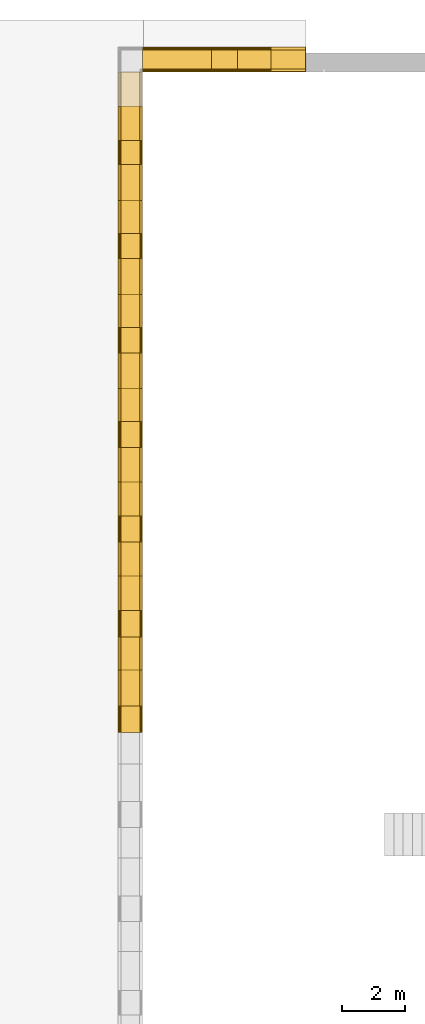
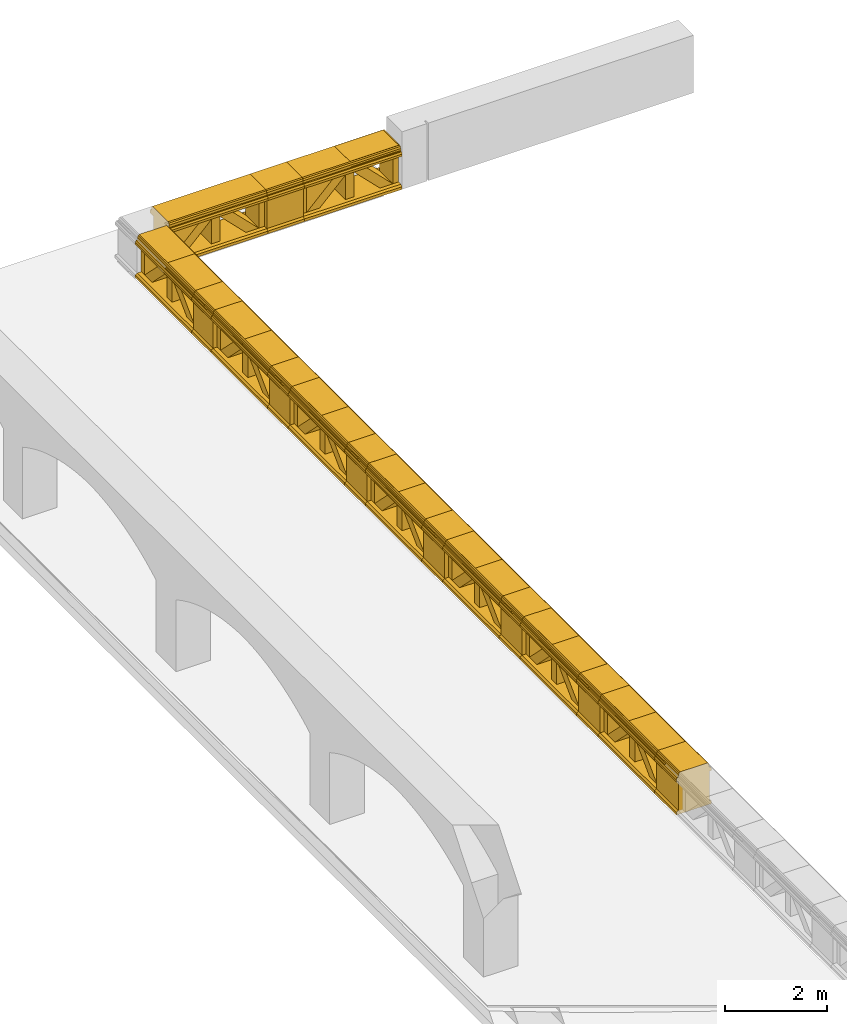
# One storey, part 8 of 9: 31 railings.
"""IFC2X3 building model written with IfcOpenShell, lengths in millimetres."""

import ifcopenshell
import ifcopenshell.guid

model = None  # the IFC model being written
_history = None  # IfcOwnerHistory: only IFC2X3 demands one
_inside = {}  # id of a spatial element -> (the spatial element, [elements in it])
_under = {}  # id of a project, library or spatial element -> (it, [spatial elements below it])
_declared = {}  # id of a project -> (the project, [libraries it declares])
_typed = {}  # id of a type object -> (the type object, [elements of that type])
_made_of = {}  # id of a material, layer set ... -> (it, [elements and type objects made of it])


def new_model(schema):
    """Start an empty IFC model of exactly this schema.

    Asked for "IFC4X3", IfcOpenShell would pick the latest addendum, in which some entities
    have other attributes; the version numbers below select the first issue.
    IFC2X3 requires an IfcOwnerHistory on every rooted entity: one is made here for all.
    """
    global model, _history
    if schema == "IFC4X3":
        model = ifcopenshell.file(schema_version=(4, 3, 0, 0))
    else:
        model = ifcopenshell.file(schema=schema)
    _inside.clear()
    _under.clear()
    _declared.clear()
    _typed.clear()
    _made_of.clear()
    _history = None
    if model.schema == "IFC2X3":
        org = make("IfcOrganization", Name="unknown")
        user = make(
            "IfcPersonAndOrganization",
            ThePerson=make("IfcPerson", FamilyName="unknown"),
            TheOrganization=org,
        )
        app = make(
            "IfcApplication",
            ApplicationDeveloper=org,
            Version="unknown",
            ApplicationFullName="unknown",
            ApplicationIdentifier="unknown",
        )
        _history = make(
            "IfcOwnerHistory",
            OwningUser=user,
            OwningApplication=app,
            ChangeAction="ADDED",
            CreationDate=0,
        )
    return model


def make(cls, **values):
    """One entity of the class cls with the attributes given. An attribute that is None is left unset."""
    return model.create_entity(
        cls, **{name: value for name, value in values.items() if value is not None}
    )


def entity(cls, *values):
    """Any entity or typed value of the class cls, its attributes in the order of the schema. None: left unset."""
    e = model.create_entity(cls)
    for i, value in enumerate(values):
        if value is not None:
            e[i] = value
    return e


def rooted(cls, **values):
    """An entity with a GlobalId (a new one), such as an element, a storey or a relation."""
    return make(cls, GlobalId=ifcopenshell.guid.new(), OwnerHistory=_history, **values)


def si_unit(unit_type, name, prefix=None):
    """IfcSIUnit, for example si_unit("LENGTHUNIT", "METRE", prefix="MILLI")."""
    return make("IfcSIUnit", UnitType=unit_type, Prefix=prefix, Name=name)


def converted_unit(unit_type, name, factor, base, dimensions=None, offset=None):
    """IfcConversionBasedUnit, such as the inch: factor (a typed value) times the base unit."""
    return make(
        "IfcConversionBasedUnit"
        if offset is None
        else "IfcConversionBasedUnitWithOffset",
        ConversionOffset=offset,
        Dimensions=None
        if dimensions is None
        else entity("IfcDimensionalExponents", *dimensions),
        UnitType=unit_type,
        Name=name,
        ConversionFactor=make(
            "IfcMeasureWithUnit", ValueComponent=factor, UnitComponent=base
        ),
    )


def derived_unit(unit_type, elements):
    """IfcDerivedUnit: a product of units, each with its exponent."""
    return make(
        "IfcDerivedUnit",
        Elements=[
            make("IfcDerivedUnitElement", Unit=unit, Exponent=power)
            for unit, power in elements
        ],
        UnitType=unit_type,
    )


def assignment(units):
    """IfcUnitAssignment: the units of a project."""
    return None if units is None else make("IfcUnitAssignment", Units=units)


def point(xyz):
    """IfcCartesianPoint."""
    return None if xyz is None else make("IfcCartesianPoint", Coordinates=xyz)


def direction(xyz):
    """IfcDirection."""
    return None if xyz is None else make("IfcDirection", DirectionRatios=xyz)


def frame(location, z_axis=None, x_axis=None):
    """IfcAxis2Placement3D, a coordinate frame: its origin and axes. An axis left out is left unset."""
    return make(
        "IfcAxis2Placement3D",
        Location=point(location),
        Axis=direction(z_axis),
        RefDirection=direction(x_axis),
    )


def origin():
    """The frame at (0, 0, 0) with its axes left unset."""
    return frame((0.0, 0.0, 0.0))


def place(relative_to, where):
    """IfcLocalPlacement: puts the frame where relative to a parent placement (None: the world)."""
    return make(
        "IfcLocalPlacement", PlacementRelTo=relative_to, RelativePlacement=where
    )


def context(
    kind, dimensions, precision=None, world=None, true_north=None, identifier=None
):
    """IfcGeometricRepresentationContext, for example the 3D "Model" context."""
    return make(
        "IfcGeometricRepresentationContext",
        ContextIdentifier=identifier,
        ContextType=kind,
        CoordinateSpaceDimension=dimensions,
        Precision=precision,
        WorldCoordinateSystem=world,
        TrueNorth=true_north,
    )


def subcontext(parent, identifier, kind, view, scale=None):
    """IfcGeometricRepresentationSubContext, for example "Body" below "Model"."""
    return make(
        "IfcGeometricRepresentationSubContext",
        ContextIdentifier=identifier,
        ContextType=kind,
        ParentContext=parent,
        TargetScale=scale,
        TargetView=view,
    )


def project(units=None, contexts=None):
    """IfcProject with its units and contexts."""
    return rooted(
        "IfcProject",
        Name="project",
        RepresentationContexts=contexts,
        UnitsInContext=assignment(units),
    )


def spatial(cls, under=None, at=None, **own):
    """A site, building, storey or space (cls), placed at a placement, below another one or the project."""
    s = rooted(cls, ObjectPlacement=at, **own)
    if under is not None:
        _under.setdefault(under.id(), (under, []))[1].append(s)
    return s


def polyline(points):
    """IfcPolyline through the points."""
    return make("IfcPolyline", Points=[point(p) for p in points])


def outline(outer, holes=None, kind="AREA"):
    """IfcArbitraryClosedProfileDef: a profile drawn as a closed curve; with holes, ...WithVoids."""
    if holes is None:
        return make("IfcArbitraryClosedProfileDef", ProfileType=kind, OuterCurve=outer)
    return make(
        "IfcArbitraryProfileDefWithVoids",
        ProfileType=kind,
        OuterCurve=outer,
        InnerCurves=holes,
    )


def extrude(swept, where, along, depth):
    """IfcExtrudedAreaSolid: the profile swept, set in the frame where, extruded along a direction by depth."""
    return make(
        "IfcExtrudedAreaSolid",
        SweptArea=swept,
        Position=where,
        ExtrudedDirection=direction(along),
        Depth=depth,
    )


def faces_of(points, faces, orient=None, outer=None):
    """IfcFace entities. A face is a list of loops; a loop is a list of indices into points, from 0.

    orient and outer hold one flag for each loop. By default every Orientation is true, the
    first loop of a face is its IfcFaceOuterBound and the others are IfcFaceBound.
    """
    made = []
    for i, loops in enumerate(faces):
        bounds = []
        for j, loop in enumerate(loops):
            is_outer = j == 0 if outer is None else outer[i][j]
            bounds.append(
                make(
                    "IfcFaceOuterBound" if is_outer else "IfcFaceBound",
                    Bound=make("IfcPolyLoop", Polygon=[points[k] for k in loop]),
                    Orientation=True if orient is None else orient[i][j],
                )
            )
        made.append(make("IfcFace", Bounds=bounds))
    return made


def faceted_brep(points, faces, orient=None, outer=None, voids=None):
    """IfcFacetedBrep: a solid bounded by flat faces; with voids (closed shells), ...WithVoids."""
    shared = [point(p) for p in points]
    hull = make("IfcClosedShell", CfsFaces=faces_of(shared, faces, orient, outer))
    if voids is None:
        return make("IfcFacetedBrep", Outer=hull)
    return make(
        "IfcFacetedBrepWithVoids",
        Outer=hull,
        Voids=[
            make(cls, CfsFaces=faces_of(shared, fs, o, b)) for cls, fs, o, b in voids
        ],
    )


def shape(context_of_items, identifier, shape_type, items):
    """IfcShapeRepresentation: the items that make up one representation, for example the "Body"."""
    return make(
        "IfcShapeRepresentation",
        ContextOfItems=context_of_items,
        RepresentationIdentifier=identifier,
        RepresentationType=shape_type,
        Items=items,
    )


def source(mapping_origin, context_of_items, identifier, shape_type, items):
    """IfcRepresentationMap: a shape defined once, which mapped items show again and again."""
    return make(
        "IfcRepresentationMap",
        MappingOrigin=mapping_origin,
        MappedRepresentation=shape(context_of_items, identifier, shape_type, items),
    )


def transform(
    local_origin,
    x_axis=None,
    y_axis=None,
    z_axis=None,
    scale=None,
    scale2=None,
    scale3=None,
    uniform=True,
):
    """IfcCartesianTransformationOperator3D, or its non-uniform kind. x_axis, y_axis, z_axis: its Axis1, 2, 3."""
    if uniform:
        return make(
            "IfcCartesianTransformationOperator3D",
            Axis1=direction(x_axis),
            Axis2=direction(y_axis),
            LocalOrigin=point(local_origin),
            Scale=scale,
            Axis3=direction(z_axis),
        )
    return make(
        "IfcCartesianTransformationOperator3DnonUniform",
        Axis1=direction(x_axis),
        Axis2=direction(y_axis),
        LocalOrigin=point(local_origin),
        Scale=scale,
        Axis3=direction(z_axis),
        Scale2=scale2,
        Scale3=scale3,
    )


def mapped(mapping_source, mapping_target):
    """IfcMappedItem: shows the shape of a source again, moved by a transform."""
    return make(
        "IfcMappedItem", MappingSource=mapping_source, MappingTarget=mapping_target
    )


def material(Name=None, Category=None):
    """IfcMaterial."""
    return make("IfcMaterial", Name=Name, Category=Category)


def made_of(thing, what):
    """Note that an element or type object is made of a material, layer set ...; save() writes the relation."""
    if what is not None:
        _made_of.setdefault(what.id(), (what, []))[1].append(thing)
    return thing


def type_object(cls, material=None, **own):
    """A type object (cls), such as IfcWallType, which elements share."""
    return made_of(rooted(cls, **own), material)


def type_shapes(of_type, sources):
    """Give a type object the sources (RepresentationMaps) that its elements show as mapped items."""
    of_type.RepresentationMaps = sources


def element(
    cls,
    number,
    at=None,
    inside=None,
    cuts=None,
    type_object=None,
    material=None,
    context=None,
    identifier="Body",
    shape_type=None,
    held_by="IfcProductDefinitionShape",
    body=None,
    shapes=None,
    **own,
):
    """One element of the class cls, such as IfcWall. Its Tag is "e" and its number.

    at: its placement. inside: the storey or other place that contains it. cuts: it is an
    opening in that element (IfcRelVoidsElement). A single representation is given by context,
    identifier, shape_type and body (its items); several are given by shapes. held_by: the class
    of the entity that holds the representations. save() writes the other relations.
    """
    e = rooted(cls, Tag="e%d" % number, ObjectPlacement=at, **own)
    if body is not None:
        shapes = [shape(context, identifier, shape_type, body)]
    if shapes is not None:
        e.Representation = make(held_by, Representations=shapes)
    if inside is not None:
        _inside.setdefault(inside.id(), (inside, []))[1].append(e)
    if cuts is not None:
        rooted(
            "IfcRelVoidsElement", RelatingBuildingElement=cuts, RelatedOpeningElement=e
        )
    if type_object is not None:
        _typed.setdefault(type_object.id(), (type_object, []))[1].append(e)
    return made_of(e, material)


def aggregate(whole, parts):
    """IfcRelAggregates: a whole, such as a stair, and the parts it consists of."""
    return rooted("IfcRelAggregates", RelatingObject=whole, RelatedObjects=parts)


def save(model, path):
    """Write the relations noted so far, then the file.

    IfcRelAggregates (storeys below a building ...), IfcRelContainedInSpatialStructure (elements
    in a storey), IfcRelDefinesByType, IfcRelAssociatesMaterial and IfcRelDeclares: one each for
    every whole, place, type object, material and project.
    """
    for whole, parts in _under.values():
        aggregate(whole, parts)
    for where, things in _inside.values():
        rooted(
            "IfcRelContainedInSpatialStructure",
            RelatedElements=things,
            RelatingStructure=where,
        )
    for kind, things in _typed.values():
        rooted("IfcRelDefinesByType", RelatedObjects=things, RelatingType=kind)
    for what, things in _made_of.values():
        rooted("IfcRelAssociatesMaterial", RelatedObjects=things, RelatingMaterial=what)
    for by, libraries in _declared.values():
        rooted("IfcRelDeclares", RelatingContext=by, RelatedDefinitions=libraries)
    model.write(path)


model = new_model("IFC2X3")

# Units and contexts
model_context = context("Model", 3, precision=0.01, world=origin(), true_north=direction((6.123031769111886e-17, 1.0)))
body_context = subcontext(model_context, "Body", "Model", "MODEL_VIEW")
ifc_project = project(units=[si_unit("LENGTHUNIT", "METRE", prefix="MILLI"), si_unit("AREAUNIT", "SQUARE_METRE"), si_unit("VOLUMEUNIT", "CUBIC_METRE"), converted_unit("PLANEANGLEUNIT", "DEGREE", entity("IfcPlaneAngleMeasure", 0.017453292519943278), si_unit("PLANEANGLEUNIT", "RADIAN"), dimensions=[0, 0, 0, 0, 0, 0, 0]), si_unit("MASSUNIT", "GRAM", prefix="KILO"), derived_unit("MASSDENSITYUNIT", [(si_unit("MASSUNIT", "GRAM", prefix="KILO"), 1), (si_unit("LENGTHUNIT", "METRE"), -3)]), derived_unit("IONCONCENTRATIONUNIT", [(si_unit("MASSUNIT", "GRAM", prefix="KILO"), 1), (si_unit("LENGTHUNIT", "METRE"), -3)]), derived_unit("MOMENTOFINERTIAUNIT", [(si_unit("LENGTHUNIT", "METRE"), 4)]), si_unit("TIMEUNIT", "SECOND"), si_unit("FREQUENCYUNIT", "HERTZ"), si_unit("THERMODYNAMICTEMPERATUREUNIT", "DEGREE_CELSIUS"), derived_unit("THERMALTRANSMITTANCEUNIT", [(si_unit("MASSUNIT", "GRAM", prefix="KILO"), 1), (si_unit("THERMODYNAMICTEMPERATUREUNIT", "KELVIN"), -1), (si_unit("TIMEUNIT", "SECOND"), -3)]), derived_unit("THERMALCONDUCTANCEUNIT", [(si_unit("MASSUNIT", "GRAM", prefix="KILO"), 1), (si_unit("THERMODYNAMICTEMPERATUREUNIT", "KELVIN"), -1), (si_unit("TIMEUNIT", "SECOND"), -3), (si_unit("LENGTHUNIT", "METRE"), 1)]), derived_unit("VOLUMETRICFLOWRATEUNIT", [(si_unit("LENGTHUNIT", "METRE", prefix="DECI"), 3), (si_unit("TIMEUNIT", "SECOND"), -1)]), derived_unit("MASSFLOWRATEUNIT", [(si_unit("MASSUNIT", "GRAM", prefix="KILO"), 1), (si_unit("TIMEUNIT", "SECOND"), -1)]), derived_unit("ROTATIONALFREQUENCYUNIT", [(si_unit("TIMEUNIT", "SECOND"), -1)]), si_unit("ELECTRICCURRENTUNIT", "AMPERE"), si_unit("ELECTRICVOLTAGEUNIT", "VOLT"), si_unit("POWERUNIT", "WATT"), si_unit("FORCEUNIT", "NEWTON", prefix="KILO"), si_unit("ILLUMINANCEUNIT", "LUX"), si_unit("LUMINOUSFLUXUNIT", "LUMEN"), si_unit("LUMINOUSINTENSITYUNIT", "CANDELA"), si_unit("ENERGYUNIT", "JOULE"), derived_unit("USERDEFINED", [(si_unit("MASSUNIT", "GRAM", prefix="KILO"), -1), (si_unit("LENGTHUNIT", "METRE"), -2), (si_unit("TIMEUNIT", "SECOND"), 3), (si_unit("LUMINOUSFLUXUNIT", "LUMEN"), 1)]), derived_unit("USERDEFINED", [(si_unit("MASSUNIT", "GRAM", prefix="KILO"), 1), (si_unit("TIMEUNIT", "SECOND"), -3), (si_unit("LENGTHUNIT", "METRE"), 3), (si_unit("ELECTRICCURRENTUNIT", "AMPERE"), -2)]), derived_unit("SOUNDPOWERUNIT", [(si_unit("MASSUNIT", "GRAM", prefix="KILO"), 1), (si_unit("TIMEUNIT", "SECOND"), -3), (si_unit("LENGTHUNIT", "METRE"), 2)]), derived_unit("SOUNDPRESSUREUNIT", [(si_unit("MASSUNIT", "GRAM", prefix="KILO"), 1), (si_unit("LENGTHUNIT", "METRE"), -1), (si_unit("TIMEUNIT", "SECOND"), -2)]), derived_unit("LINEARVELOCITYUNIT", [(si_unit("LENGTHUNIT", "METRE"), 1), (si_unit("TIMEUNIT", "SECOND"), -1)]), si_unit("PRESSUREUNIT", "PASCAL"), derived_unit("USERDEFINED", [(si_unit("MASSUNIT", "GRAM", prefix="KILO"), 1), (si_unit("LENGTHUNIT", "METRE"), -2), (si_unit("TIMEUNIT", "SECOND"), -2)]), derived_unit("LINEARFORCEUNIT", [(si_unit("MASSUNIT", "GRAM", prefix="KILO"), 1), (si_unit("TIMEUNIT", "SECOND"), -2)]), derived_unit("PLANARFORCEUNIT", [(si_unit("MASSUNIT", "GRAM", prefix="KILO"), 1), (si_unit("LENGTHUNIT", "METRE"), -1), (si_unit("TIMEUNIT", "SECOND"), -2)]), derived_unit("SPECIFICHEATCAPACITYUNIT", [(si_unit("THERMODYNAMICTEMPERATUREUNIT", "KELVIN"), -1), (si_unit("LENGTHUNIT", "METRE"), 2), (si_unit("TIMEUNIT", "SECOND"), -2)]), derived_unit("HEATFLUXDENSITYUNIT", [(si_unit("MASSUNIT", "GRAM", prefix="KILO"), 1), (si_unit("TIMEUNIT", "SECOND"), -3)]), derived_unit("HEATINGVALUEUNIT", [(si_unit("LENGTHUNIT", "METRE"), 2), (si_unit("TIMEUNIT", "SECOND"), -2)]), derived_unit("VAPORPERMEABILITYUNIT", [(si_unit("LENGTHUNIT", "METRE"), -1), (si_unit("TIMEUNIT", "SECOND"), 1)]), derived_unit("DYNAMICVISCOSITYUNIT", [(si_unit("MASSUNIT", "GRAM", prefix="KILO"), 1), (si_unit("TIMEUNIT", "SECOND"), -1), (si_unit("LENGTHUNIT", "METRE"), -1)]), derived_unit("THERMALEXPANSIONCOEFFICIENTUNIT", [(si_unit("THERMODYNAMICTEMPERATUREUNIT", "KELVIN"), -1)]), derived_unit("MODULUSOFELASTICITYUNIT", [(si_unit("MASSUNIT", "GRAM", prefix="KILO"), 1), (si_unit("LENGTHUNIT", "METRE"), -1), (si_unit("TIMEUNIT", "SECOND"), -2)]), derived_unit("ISOTHERMALMOISTURECAPACITYUNIT", [(si_unit("MASSUNIT", "GRAM", prefix="KILO"), -1), (si_unit("LENGTHUNIT", "METRE"), 3)]), derived_unit("MOISTUREDIFFUSIVITYUNIT", [(si_unit("TIMEUNIT", "SECOND"), -1), (si_unit("LENGTHUNIT", "METRE"), 2)]), derived_unit("MASSPERLENGTHUNIT", [(si_unit("MASSUNIT", "GRAM", prefix="KILO"), 1), (si_unit("LENGTHUNIT", "METRE"), -1)]), derived_unit("THERMALRESISTANCEUNIT", [(si_unit("MASSUNIT", "GRAM", prefix="KILO"), -1), (si_unit("TIMEUNIT", "SECOND"), 3), (si_unit("THERMODYNAMICTEMPERATUREUNIT", "KELVIN"), 1)]), derived_unit("ACCELERATIONUNIT", [(si_unit("LENGTHUNIT", "METRE"), 1), (si_unit("TIMEUNIT", "SECOND"), -2)]), derived_unit("ANGULARVELOCITYUNIT", [(si_unit("TIMEUNIT", "SECOND"), -1), (si_unit("PLANEANGLEUNIT", "RADIAN"), 1)]), derived_unit("LINEARSTIFFNESSUNIT", [(si_unit("MASSUNIT", "GRAM", prefix="KILO"), 1), (si_unit("TIMEUNIT", "SECOND"), -2)]), derived_unit("WARPINGCONSTANTUNIT", [(si_unit("LENGTHUNIT", "METRE"), 6)]), derived_unit("LINEARMOMENTUNIT", [(si_unit("MASSUNIT", "GRAM", prefix="KILO"), 1), (si_unit("LENGTHUNIT", "METRE"), 1), (si_unit("TIMEUNIT", "SECOND"), -2)]), derived_unit("TORQUEUNIT", [(si_unit("MASSUNIT", "GRAM", prefix="KILO"), 1), (si_unit("LENGTHUNIT", "METRE"), 2), (si_unit("TIMEUNIT", "SECOND"), -2)])], contexts=[model_context])

# Site, building, storey
site_placement = place(None, origin())
site = spatial("IfcSite", under=ifc_project, at=site_placement, Name="Default", CompositionType="ELEMENT")
building_placement = place(site_placement, origin())
building = spatial("IfcBuilding", under=site, at=building_placement, Name="Eesti Rahvusraamatukogu hoone renoveerimise projekteerimistööd", CompositionType="ELEMENT")
storey_placement = place(building_placement, frame((0.0, 0.0, 3100.0)))
storey = spatial("IfcBuildingStorey", under=building, at=storey_placement, Name="E-korpus 2. korrus", CompositionType="ELEMENT", Elevation=3100.0)

# Railings
ifc_material = material(Name="LUMION_facade concrete")
railing_type_1 = type_object("IfcRailingType", Name="MK piire, katusepõhine 1:Railing Roof Based", PredefinedType="NOTDEFINED", material=ifc_material)
shared_shape_1 = source(origin(), body_context, "Body", "Brep", [
    faceted_brep([(1100.0, -261.2500000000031, 420.0), (1100.0, 261.2500000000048, 420.0), (1100.0, 261.25000000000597, 1210.0), (1100.0, 396.2500000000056, 1210.0), (1100.0, 396.2500000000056, 1260.882352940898), (1100.0, 376.25000000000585, 1305.0), (1100.0, 346.25000000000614, 1305.0), (1100.0, 346.2500000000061, 1362.4999999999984), (1100.0, 329.25000000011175, 1400.0), (1100.0, 306.25000000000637, 1420.0), (1100.0, -306.2500000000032, 1420.0), (1100.0, -329.250000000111, 1400.0), (1100.0, -346.25000000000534, 1362.4999999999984), (1100.0, -346.25000000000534, 1305.0), (1100.0, -376.250000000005, 1305.0), (1100.0, -396.25000000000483, 1260.882352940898), (1100.0, -396.25000000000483, 1210.0), (1100.0, -261.2500000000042, 1210.0), (-1100.0, -261.2500000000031, 420.0), (-1100.0, -261.2500000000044, 1210.0), (-1100.0, -396.25000000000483, 1210.0), (-1100.0, -396.25000000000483, 1260.882352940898), (-1100.0, -376.250000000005, 1305.0), (-1100.0, -346.25000000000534, 1305.0), (-1100.0, -346.25000000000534, 1362.4999999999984), (-1100.0, -329.250000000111, 1400.0), (-1100.0, -306.25000000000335, 1420.0), (-1100.0, 306.25000000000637, 1420.0), (-1100.0, 329.25000000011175, 1400.0), (-1100.0, 346.2500000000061, 1362.4999999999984), (-1100.0, 346.25000000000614, 1305.0), (-1100.0, 376.25000000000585, 1305.0), (-1100.0, 396.2500000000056, 1260.882352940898), (-1100.0, 396.2500000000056, 1210.0), (-1100.0, 261.25000000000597, 1210.0), (-1100.0, 261.2500000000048, 420.0), (970.0, -261.2500000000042, 1210.0), (970.0, -261.2500000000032, 515.0), (275.0, -261.2500000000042, 1210.0), (-275.0, -261.2500000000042, 1210.0), (-970.0, -261.2500000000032, 515.0), (-970.0, -261.2500000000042, 1210.0), (680.0, -261.2500000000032, 515.0), (100.0, -261.2500000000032, 515.0), (100.0, -261.25000000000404, 1095.0), (-100.0, -261.2500000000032, 515.0), (-680.0, -261.2500000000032, 515.0), (-100.0, -261.25000000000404, 1095.0), (-970.0, 261.25000000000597, 1210.0), (-970.0, 261.25000000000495, 515.0), (-275.0, 261.25000000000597, 1210.0), (275.0, 261.25000000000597, 1210.0), (970.0, 261.25000000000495, 515.0), (970.0, 261.25000000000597, 1210.0), (100.0, 261.25000000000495, 515.0), (680.0, 261.25000000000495, 515.0), (100.0, 261.2500000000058, 1095.0), (-680.0, 261.25000000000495, 515.0), (-100.0, 261.25000000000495, 515.0), (-100.0, 261.2500000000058, 1095.0)], [[[0, 1, 2, 3, 4, 5, 6, 7, 8, 9, 10, 11, 12, 13, 14, 15, 16, 17]], [[18, 19, 20, 21, 22, 23, 24, 25, 26, 27, 28, 29, 30, 31, 32, 33, 34, 35]], [[0, 17, 36, 37, 38, 39, 40, 41, 19, 18], [42, 43, 44], [45, 46, 47]], [[1, 0, 18, 35]], [[2, 1, 35, 34, 48, 49, 50, 51, 52, 53], [54, 55, 56], [57, 58, 59]], [[3, 2, 53, 36, 17, 16, 20, 19, 41, 48, 34, 33], [50, 39, 38, 51]], [[4, 3, 33, 32]], [[5, 4, 32, 31]], [[6, 5, 31, 30]], [[7, 6, 30, 29]], [[8, 7, 29, 28]], [[9, 8, 28, 27]], [[10, 9, 27, 26]], [[11, 10, 26, 25]], [[12, 11, 25, 24]], [[13, 12, 24, 23]], [[14, 13, 23, 22]], [[15, 14, 22, 21]], [[20, 16, 15, 21]], [[54, 43, 42, 55]], [[55, 42, 44, 56]], [[43, 54, 56, 44]], [[57, 46, 45, 58]], [[58, 45, 47, 59]], [[46, 57, 59, 47]], [[39, 50, 49, 40]], [[48, 41, 40, 49]], [[36, 53, 52, 37]], [[51, 38, 37, 52]]]),
    faceted_brep([(1100.0, -396.2500000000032, 420.0), (1100.0, -261.25000000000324, 420.0), (1100.0, -261.25000000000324, 515.0), (1100.0, -351.2500000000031, 515.0), (1100.0, -396.2500000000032, 483.4906607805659), (-1100.0, -396.2500000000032, 420.0), (-1100.0, -261.25000000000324, 420.0), (-1100.0, -261.25000000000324, 515.0), (-1100.0, -396.2500000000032, 483.4906607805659), (-1100.0, -351.2500000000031, 515.0)], [[[0, 1, 2, 3, 4]], [[1, 0, 5, 6]], [[2, 1, 6, 7]], [[0, 4, 8, 5]], [[3, 2, 7, 9]], [[4, 3, 9, 8]], [[5, 8, 9, 7, 6]]]),
    faceted_brep([(-1100.0, 396.250000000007, 420.0), (-1100.0, 261.2500000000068, 420.0), (-1100.0, 261.2500000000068, 515.0), (-1100.0, 351.25000000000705, 515.0), (-1100.0, 396.250000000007, 483.4906607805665), (1100.0, 396.250000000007, 483.4906607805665), (1100.0, 396.250000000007, 420.0), (1100.0, 261.2500000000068, 420.0), (1100.0, 261.2500000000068, 515.0), (1100.0, 351.25000000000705, 515.0)], [[[0, 1, 2, 3, 4]], [[5, 6, 0, 4]], [[7, 8, 2, 1]], [[6, 7, 1, 0]], [[9, 5, 4, 3]], [[8, 9, 3, 2]], [[6, 5, 9, 8, 7]]]),
])
type_shapes(railing_type_1, [shared_shape_1])
for number, where, name in (
    (1, (-38470.0, 54386.62627987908, 60.0), "MK piire, katusepõhine 1:Railing Roof Based"),
    (2, (-41490.0, 54386.62627987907, 60.0), "MK piire, katusepõhine 1:Railing Roof Based"),
):
    element("IfcRailing", number, at=place(storey_placement, frame(where)), inside=storey, type_object=railing_type_1, material=ifc_material, Name=name, ObjectType="MK piire, katusepõhine 1:Railing Roof Based", PredefinedType="NOTDEFINED", context=body_context, shape_type="MappedRepresentation", body=[
        mapped(shared_shape_1, transform((0.0, 0.0, 0.0), scale=1.0)),
    ])
for number, where, z_axis, x_axis, name in (
    (3, (-42986.24999999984, 52890.37627987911, 60.0), (0.0, 0.0, 1.0), (0.0, -1.0, 0.0), "MK piire, katusepõhine 1:Railing Roof Based"),
    (4, (-42986.24999999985, 49930.0, 60.0), (0.0, 0.0, 1.0), (0.0, -1.0, 0.0), "MK piire, katusepõhine 1:Railing Roof Based"),
    (5, (-42986.24999999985, 46922.0000000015, 60.0), (0.0, 0.0, 1.0), (0.0, -1.0, 0.0), "MK piire, katusepõhine 1:Railing Roof Based"),
    (6, (-42986.24999999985, 43913.49208346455, 60.0), (0.0, 0.0, 1.0), (0.0, -1.0, 0.0), "MK piire, katusepõhine 1:Railing Roof Based"),
    (7, (-42986.249999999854, 40892.00000000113, 60.0), (0.0, 0.0, 1.0), (0.0, -1.0, 0.0), "MK piire, katusepõhine 1:Railing Roof Based"),
    (8, (-42986.24999999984, 37874.00000000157, 60.0), (0.0, 0.0, 1.0), (0.0, -1.0, 0.0), "MK piire, katusepõhine 1:Railing Roof Based"),
    (9, (-42986.24999999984, 34827.725950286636, 60.0), (0.0, 0.0, 1.0), (0.0, -1.0, 0.0), "MK piire, katusepõhine 1:Railing Roof Based"),
):
    element("IfcRailing", number, at=place(storey_placement, frame(where, z_axis=z_axis, x_axis=x_axis)), inside=storey, type_object=railing_type_1, material=ifc_material, Name=name, ObjectType="MK piire, katusepõhine 1:Railing Roof Based", PredefinedType="NOTDEFINED", context=body_context, shape_type="MappedRepresentation", body=[
        mapped(shared_shape_1, transform((0.0, 0.0, 0.0), scale=1.0)),
    ])
railing_type_2 = type_object("IfcRailingType", Name="MK piire, katusepõhine 4:PR-03 - Piirde element väljas, tumm", PredefinedType="NOTDEFINED", material=ifc_material)
shared_shape_2 = source(origin(), body_context, "Body", "SweptSolid", [
    extrude(outline(polyline([(597.5887041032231, -396.25000000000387), (661.0793648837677, -396.25000000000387), (661.0793648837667, 396.2500000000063), (597.5887041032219, 396.25000000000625), (566.0793648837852, 351.2500000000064), (-128.92063511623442, 351.25000000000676), (-128.92063511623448, 396.2500000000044), (-179.80298805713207, 396.2500000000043), (-223.92063511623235, 376.2500000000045), (-223.92063511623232, 346.2500000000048), (-281.42063511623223, 346.2500000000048), (-318.9206351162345, 329.2500000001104), (-338.9206351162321, 306.250000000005), (-338.92063511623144, -306.2500000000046), (-318.9206351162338, -329.25000000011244), (-281.4206351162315, -346.2500000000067), (-223.92063511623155, -346.2500000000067), (-223.92063511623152, -376.25000000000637), (-179.80298805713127, -396.2500000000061), (-128.92063511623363, -396.250000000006), (-128.92063511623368, -351.25000000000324), (566.079364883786, -351.25000000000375), (597.5887041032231, -396.25000000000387)])), frame((-1100.0, 0.0, 1081.0793648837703), z_axis=(1.0, 0.0, 0.0), x_axis=(0.0, 0.0, -1.0)), (0.0, 0.0, 1.0), 819.9999999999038),
])
type_shapes(railing_type_2, [shared_shape_2])
railing_1_placement = place(storey_placement, frame((-39290.0, 54386.62627987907, 60.0)))
element("IfcRailing", 10, at=railing_1_placement, inside=storey, type_object=railing_type_2, material=ifc_material, Name="MK piire, katusepõhine 4:PR-03 - Piirde element väljas, tumm", ObjectType="MK piire, katusepõhine 4:PR-03 - Piirde element väljas, tumm", PredefinedType="NOTDEFINED", context=body_context, shape_type="MappedRepresentation", body=[
    mapped(shared_shape_2, transform((0.0, 0.0, 0.0), scale=1.0)),
])
railing_type_3 = type_object("IfcRailingType", Name="MK piire, katusepõhine 4:PR-03 - Piirde element väljas, tumm", PredefinedType="NOTDEFINED", material=ifc_material)
shared_shape_3 = source(origin(), body_context, "Body", "SweptSolid", [
    extrude(outline(polyline([(597.5887041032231, -396.25000000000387), (661.0793648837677, -396.25000000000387), (661.0793648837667, 396.2500000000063), (597.5887041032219, 396.25000000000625), (566.0793648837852, 351.2500000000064), (-128.92063511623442, 351.25000000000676), (-128.92063511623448, 396.2500000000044), (-179.80298805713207, 396.2500000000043), (-223.92063511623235, 376.2500000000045), (-223.92063511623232, 346.2500000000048), (-281.42063511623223, 346.2500000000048), (-318.9206351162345, 329.2500000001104), (-338.9206351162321, 306.250000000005), (-338.92063511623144, -306.2500000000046), (-318.9206351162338, -329.25000000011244), (-281.4206351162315, -346.2500000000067), (-223.92063511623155, -346.2500000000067), (-223.92063511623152, -376.25000000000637), (-179.80298805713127, -396.2500000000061), (-128.92063511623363, -396.250000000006), (-128.92063511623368, -351.25000000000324), (566.079364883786, -351.25000000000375), (597.5887041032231, -396.25000000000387)])), frame((-1100.0, 0.0, 1081.0793648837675), z_axis=(1.0, 0.0, 0.0), x_axis=(0.0, 0.0, -1.0)), (0.0, 0.0, 1.0), 760.3762798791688),
])
type_shapes(railing_type_3, [shared_shape_3])
railing_2_placement = place(storey_placement, frame((-42986.24999999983, 50690.3762798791, 60.0), z_axis=(0.0, 0.0, 1.0), x_axis=(0.0, -1.0, 0.0)))
element("IfcRailing", 11, at=railing_2_placement, inside=storey, type_object=railing_type_3, material=ifc_material, Name="MK piire, katusepõhine 4:PR-03 - Piirde element väljas, tumm", ObjectType="MK piire, katusepõhine 4:PR-03 - Piirde element väljas, tumm", PredefinedType="NOTDEFINED", context=body_context, shape_type="MappedRepresentation", body=[
    mapped(shared_shape_3, transform((0.0, 0.0, 0.0), scale=1.0)),
])
railing_type_4 = type_object("IfcRailingType", Name="MK piire, katusepõhine 4:PR-03 - Piirde element väljas, tumm", PredefinedType="NOTDEFINED", material=ifc_material)
shared_shape_4 = source(origin(), body_context, "Body", "SweptSolid", [
    extrude(outline(polyline([(597.5887041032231, -396.25000000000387), (661.0793648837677, -396.25000000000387), (661.0793648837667, 396.2500000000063), (597.5887041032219, 396.25000000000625), (566.0793648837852, 351.2500000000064), (-128.92063511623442, 351.25000000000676), (-128.92063511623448, 396.2500000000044), (-179.80298805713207, 396.2500000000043), (-223.92063511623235, 376.2500000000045), (-223.92063511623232, 346.2500000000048), (-281.42063511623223, 346.2500000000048), (-318.9206351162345, 329.2500000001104), (-338.9206351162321, 306.250000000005), (-338.92063511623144, -306.2500000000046), (-318.9206351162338, -329.25000000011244), (-281.4206351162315, -346.2500000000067), (-223.92063511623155, -346.2500000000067), (-223.92063511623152, -376.25000000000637), (-179.80298805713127, -396.2500000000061), (-128.92063511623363, -396.250000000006), (-128.92063511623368, -351.25000000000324), (566.079364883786, -351.25000000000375), (597.5887041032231, -396.25000000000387)])), frame((-1100.0, 0.0, 1081.0793648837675), z_axis=(1.0, 0.0, 0.0), x_axis=(0.0, 0.0, -1.0)), (0.0, 0.0, 1.0), 807.9999999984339),
])
type_shapes(railing_type_4, [shared_shape_4])
railing_3_placement = place(storey_placement, frame((-42986.24999999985, 47730.0, 60.0), z_axis=(0.0, 0.0, 1.0), x_axis=(0.0, -1.0, 0.0)))
element("IfcRailing", 12, at=railing_3_placement, inside=storey, type_object=railing_type_4, material=ifc_material, Name="MK piire, katusepõhine 4:PR-03 - Piirde element väljas, tumm", ObjectType="MK piire, katusepõhine 4:PR-03 - Piirde element väljas, tumm", PredefinedType="NOTDEFINED", context=body_context, shape_type="MappedRepresentation", body=[
    mapped(shared_shape_4, transform((0.0, 0.0, 0.0), scale=1.0)),
])
railing_type_5 = type_object("IfcRailingType", Name="MK piire, katusepõhine 4:PR-03 - Piirde element väljas, tumm", PredefinedType="NOTDEFINED", material=ifc_material)
shared_shape_5 = source(origin(), body_context, "Body", "SweptSolid", [
    extrude(outline(polyline([(597.5887041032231, -396.25000000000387), (661.0793648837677, -396.25000000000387), (661.0793648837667, 396.2500000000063), (597.5887041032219, 396.25000000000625), (566.0793648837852, 351.2500000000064), (-128.92063511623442, 351.25000000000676), (-128.92063511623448, 396.2500000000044), (-179.80298805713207, 396.2500000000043), (-223.92063511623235, 376.2500000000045), (-223.92063511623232, 346.2500000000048), (-281.42063511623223, 346.2500000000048), (-318.9206351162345, 329.2500000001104), (-338.9206351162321, 306.250000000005), (-338.92063511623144, -306.2500000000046), (-318.9206351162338, -329.25000000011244), (-281.4206351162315, -346.2500000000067), (-223.92063511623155, -346.2500000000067), (-223.92063511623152, -376.25000000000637), (-179.80298805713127, -396.2500000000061), (-128.92063511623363, -396.250000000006), (-128.92063511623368, -351.25000000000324), (566.079364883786, -351.25000000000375), (597.5887041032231, -396.25000000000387)])), frame((-1100.0, 0.0, 1081.0793648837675), z_axis=(1.0, 0.0, 0.0), x_axis=(0.0, 0.0, -1.0)), (0.0, 0.0, 1.0), 808.5079165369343),
])
type_shapes(railing_type_5, [shared_shape_5])
railing_4_placement = place(storey_placement, frame((-42986.24999999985, 44722.000000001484, 60.0), z_axis=(0.0, 0.0, 1.0), x_axis=(0.0, -1.0, 0.0)))
element("IfcRailing", 13, at=railing_4_placement, inside=storey, type_object=railing_type_5, material=ifc_material, Name="MK piire, katusepõhine 4:PR-03 - Piirde element väljas, tumm", ObjectType="MK piire, katusepõhine 4:PR-03 - Piirde element väljas, tumm", PredefinedType="NOTDEFINED", context=body_context, shape_type="MappedRepresentation", body=[
    mapped(shared_shape_5, transform((0.0, 0.0, 0.0), scale=1.0)),
])
railing_type_6 = type_object("IfcRailingType", Name="MK piire, katusepõhine 4:PR-03 - Piirde element väljas, tumm", PredefinedType="NOTDEFINED", material=ifc_material)
shared_shape_6 = source(origin(), body_context, "Body", "SweptSolid", [
    extrude(outline(polyline([(597.5887041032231, -396.25000000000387), (661.0793648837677, -396.25000000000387), (661.0793648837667, 396.2500000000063), (597.5887041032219, 396.25000000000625), (566.0793648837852, 351.2500000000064), (-128.92063511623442, 351.25000000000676), (-128.92063511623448, 396.2500000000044), (-179.80298805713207, 396.2500000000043), (-223.92063511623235, 376.2500000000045), (-223.92063511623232, 346.2500000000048), (-281.42063511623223, 346.2500000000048), (-318.9206351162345, 329.2500000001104), (-338.9206351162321, 306.250000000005), (-338.92063511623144, -306.2500000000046), (-318.9206351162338, -329.25000000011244), (-281.4206351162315, -346.2500000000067), (-223.92063511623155, -346.2500000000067), (-223.92063511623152, -376.25000000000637), (-179.80298805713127, -396.2500000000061), (-128.92063511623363, -396.250000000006), (-128.92063511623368, -351.25000000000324), (566.079364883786, -351.25000000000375), (597.5887041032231, -396.25000000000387)])), frame((-1100.0, 0.0, 1081.0793648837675), z_axis=(1.0, 0.0, 0.0), x_axis=(0.0, 0.0, -1.0)), (0.0, 0.0, 1.0), 821.492083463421),
])
type_shapes(railing_type_6, [shared_shape_6])
railing_5_placement = place(storey_placement, frame((-42986.24999999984, 41713.492083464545, 60.0), z_axis=(0.0, 0.0, 1.0), x_axis=(0.0, -1.0, 0.0)))
element("IfcRailing", 14, at=railing_5_placement, inside=storey, type_object=railing_type_6, material=ifc_material, Name="MK piire, katusepõhine 4:PR-03 - Piirde element väljas, tumm", ObjectType="MK piire, katusepõhine 4:PR-03 - Piirde element väljas, tumm", PredefinedType="NOTDEFINED", context=body_context, shape_type="MappedRepresentation", body=[
    mapped(shared_shape_6, transform((0.0, 0.0, 0.0), scale=1.0)),
])
railing_type_7 = type_object("IfcRailingType", Name="MK piire, katusepõhine 4:PR-03 - Piirde element väljas, tumm", PredefinedType="NOTDEFINED", material=ifc_material)
shared_shape_7 = source(origin(), body_context, "Body", "SweptSolid", [
    extrude(outline(polyline([(597.5887041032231, -396.25000000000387), (661.0793648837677, -396.25000000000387), (661.0793648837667, 396.2500000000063), (597.5887041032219, 396.25000000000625), (566.0793648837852, 351.2500000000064), (-128.92063511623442, 351.25000000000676), (-128.92063511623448, 396.2500000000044), (-179.80298805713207, 396.2500000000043), (-223.92063511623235, 376.2500000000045), (-223.92063511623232, 346.2500000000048), (-281.42063511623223, 346.2500000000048), (-318.9206351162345, 329.2500000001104), (-338.9206351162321, 306.250000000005), (-338.92063511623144, -306.2500000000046), (-318.9206351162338, -329.25000000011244), (-281.4206351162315, -346.2500000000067), (-223.92063511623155, -346.2500000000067), (-223.92063511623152, -376.25000000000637), (-179.80298805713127, -396.2500000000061), (-128.92063511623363, -396.250000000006), (-128.92063511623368, -351.25000000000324), (566.079364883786, -351.25000000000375), (597.5887041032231, -396.25000000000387)])), frame((-1100.0, 0.0, 1081.0793648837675), z_axis=(1.0, 0.0, 0.0), x_axis=(0.0, 0.0, -1.0)), (0.0, 0.0, 1.0), 817.9999999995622),
])
type_shapes(railing_type_7, [shared_shape_7])
railing_6_placement = place(storey_placement, frame((-42986.24999999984, 38692.00000000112, 60.0), z_axis=(0.0, 0.0, 1.0), x_axis=(0.0, -1.0, 0.0)))
element("IfcRailing", 15, at=railing_6_placement, inside=storey, type_object=railing_type_7, material=ifc_material, Name="MK piire, katusepõhine 4:PR-03 - Piirde element väljas, tumm", ObjectType="MK piire, katusepõhine 4:PR-03 - Piirde element väljas, tumm", PredefinedType="NOTDEFINED", context=body_context, shape_type="MappedRepresentation", body=[
    mapped(shared_shape_7, transform((0.0, 0.0, 0.0), scale=1.0)),
])
railing_type_8 = type_object("IfcRailingType", Name="MK piire, katusepõhine 4:PR-03 - Piirde element väljas, tumm", PredefinedType="NOTDEFINED", material=ifc_material)
shared_shape_8 = source(origin(), body_context, "Body", "SweptSolid", [
    extrude(outline(polyline([(597.5887041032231, -396.25000000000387), (661.0793648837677, -396.25000000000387), (661.0793648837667, 396.2500000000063), (597.5887041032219, 396.25000000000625), (566.0793648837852, 351.2500000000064), (-128.92063511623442, 351.25000000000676), (-128.92063511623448, 396.2500000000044), (-179.80298805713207, 396.2500000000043), (-223.92063511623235, 376.2500000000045), (-223.92063511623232, 346.2500000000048), (-281.42063511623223, 346.2500000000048), (-318.9206351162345, 329.2500000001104), (-338.9206351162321, 306.250000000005), (-338.92063511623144, -306.2500000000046), (-318.9206351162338, -329.25000000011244), (-281.4206351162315, -346.2500000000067), (-223.92063511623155, -346.2500000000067), (-223.92063511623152, -376.25000000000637), (-179.80298805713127, -396.2500000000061), (-128.92063511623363, -396.250000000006), (-128.92063511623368, -351.25000000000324), (566.079364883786, -351.25000000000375), (597.5887041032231, -396.25000000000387)])), frame((-1100.0, 0.0, 1081.0793648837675), z_axis=(1.0, 0.0, 0.0), x_axis=(0.0, 0.0, -1.0)), (0.0, 0.0, 1.0), 846.2740497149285),
])
type_shapes(railing_type_8, [shared_shape_8])
railing_7_placement = place(storey_placement, frame((-42986.24999999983, 35674.000000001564, 60.0), z_axis=(0.0, 0.0, 1.0), x_axis=(0.0, -1.0, 0.0)))
element("IfcRailing", 16, at=railing_7_placement, inside=storey, type_object=railing_type_8, material=ifc_material, Name="MK piire, katusepõhine 4:PR-03 - Piirde element väljas, tumm", ObjectType="MK piire, katusepõhine 4:PR-03 - Piirde element väljas, tumm", PredefinedType="NOTDEFINED", context=body_context, shape_type="MappedRepresentation", body=[
    mapped(shared_shape_8, transform((0.0, 0.0, 0.0), scale=1.0)),
])
railing_type_9 = type_object("IfcRailingType", Name="MK piire, katusepõhine 4:PR-03 - Piirde element väljas, tumm", PredefinedType="NOTDEFINED", material=ifc_material)
shared_shape_9 = source(origin(), body_context, "Body", "SweptSolid", [
    extrude(outline(polyline([(597.5887041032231, -396.25000000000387), (661.0793648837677, -396.25000000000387), (661.0793648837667, 396.2500000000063), (597.5887041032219, 396.25000000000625), (566.0793648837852, 351.2500000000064), (-128.92063511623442, 351.25000000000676), (-128.92063511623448, 396.2500000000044), (-179.80298805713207, 396.2500000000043), (-223.92063511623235, 376.2500000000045), (-223.92063511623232, 346.2500000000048), (-281.42063511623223, 346.2500000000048), (-318.9206351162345, 329.2500000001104), (-338.9206351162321, 306.250000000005), (-338.92063511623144, -306.2500000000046), (-318.9206351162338, -329.25000000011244), (-281.4206351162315, -346.2500000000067), (-223.92063511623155, -346.2500000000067), (-223.92063511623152, -376.25000000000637), (-179.80298805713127, -396.2500000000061), (-128.92063511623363, -396.250000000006), (-128.92063511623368, -351.25000000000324), (566.079364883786, -351.25000000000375), (597.5887041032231, -396.25000000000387)])), frame((-1100.0, 0.0, 1081.0793648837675), z_axis=(1.0, 0.0, 0.0), x_axis=(0.0, 0.0, -1.0)), (0.0, 0.0, 1.0), 852.725950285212),
])
type_shapes(railing_type_9, [shared_shape_9])
railing_8_placement = place(storey_placement, frame((-42986.249999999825, 32627.725950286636, 60.0), z_axis=(0.0, 0.0, 1.0), x_axis=(0.0, -1.0, 0.0)))
element("IfcRailing", 17, at=railing_8_placement, inside=storey, type_object=railing_type_9, material=ifc_material, Name="MK piire, katusepõhine 4:PR-03 - Piirde element väljas, tumm", ObjectType="MK piire, katusepõhine 4:PR-03 - Piirde element väljas, tumm", PredefinedType="NOTDEFINED", context=body_context, shape_type="MappedRepresentation", body=[
    mapped(shared_shape_9, transform((0.0, 0.0, 0.0), scale=1.0)),
])
railing_type_10 = type_object("IfcRailingType", Name="PR3 mütsi moodul:PR3.2 - laius 790mm, pikkus1500mm", PredefinedType="NOTDEFINED", material=ifc_material)
shared_shape_10 = source(origin(), body_context, "Body", "SweptSolid", [
    extrude(outline(polyline([(-256.5832470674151, -318.1431082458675), (-26.709628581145, -318.1431082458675), (218.55417468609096, 232.72841319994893), (64.73870096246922, 403.5578032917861), (-256.5832470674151, -318.1431082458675)])), frame((0.0, 0.0, 105.0), z_axis=(1.0, 0.0, 0.0), x_axis=(0.0, -0.40673664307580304, 0.9135454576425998)), (0.0, 0.0, 1.0), 1499.9999999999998),
])
type_shapes(railing_type_10, [shared_shape_10])
for number, where, z_axis, x_axis, name in (
    (18, (-42990.0, 34880.0, 1270.0), (0.0, 0.0, 1.0), (0.0, -1.0, 0.0), "PR3 mütsi moodul:PR3.2 - laius 790mm, pikkus1500mm"),
    (19, (-42990.0, 36380.0, 1270.0), (0.0, 0.0, 1.0), (0.0, -1.0, 0.0), "PR3 mütsi moodul:PR3.2 - laius 790mm, pikkus1500mm"),
    (20, (-42990.0, 37880.0, 1270.0), (0.0, 0.0, 1.0), (0.0, -1.0, 0.0), "PR3 mütsi moodul:PR3.2 - laius 790mm, pikkus1500mm"),
    (21, (-42990.0, 39380.0, 1270.0), (0.0, 0.0, 1.0), (0.0, -1.0, 0.0), "PR3 mütsi moodul:PR3.2 - laius 790mm, pikkus1500mm"),
    (22, (-42990.0, 40880.0, 1270.0), (0.0, 0.0, 1.0), (0.0, -1.0, 0.0), "PR3 mütsi moodul:PR3.2 - laius 790mm, pikkus1500mm"),
    (23, (-42990.0, 42380.0, 1270.0), (0.0, 0.0, 1.0), (0.0, -1.0, 0.0), "PR3 mütsi moodul:PR3.2 - laius 790mm, pikkus1500mm"),
    (24, (-42990.0, 43880.0, 1270.0), (0.0, 0.0, 1.0), (0.0, -1.0, 0.0), "PR3 mütsi moodul:PR3.2 - laius 790mm, pikkus1500mm"),
    (25, (-42990.0, 45380.0, 1270.0), (0.0, 0.0, 1.0), (0.0, -1.0, 0.0), "PR3 mütsi moodul:PR3.2 - laius 790mm, pikkus1500mm"),
    (26, (-42990.0, 46880.0, 1270.0), (0.0, 0.0, 1.0), (0.0, -1.0, 0.0), "PR3 mütsi moodul:PR3.2 - laius 790mm, pikkus1500mm"),
    (27, (-42990.0, 48380.0, 1270.0), (0.0, 0.0, 1.0), (0.0, -1.0, 0.0), "PR3 mütsi moodul:PR3.2 - laius 790mm, pikkus1500mm"),
    (28, (-42990.0, 49880.0, 1270.0), (0.0, 0.0, 1.0), (0.0, -1.0, 0.0), "PR3 mütsi moodul:PR3.2 - laius 790mm, pikkus1500mm"),
    (29, (-42990.0, 51380.0, 1270.0), (0.0, 0.0, 1.0), (0.0, -1.0, 0.0), "PR3 mütsi moodul:PR3.2 - laius 790mm, pikkus1500mm"),
    (30, (-42990.0, 52880.0, 1270.0), (0.0, 0.0, 1.0), (0.0, -1.0, 0.0), "PR3 mütsi moodul:PR3.2 - laius 790mm, pikkus1500mm"),
):
    element("IfcRailing", number, at=place(storey_placement, frame(where, z_axis=z_axis, x_axis=x_axis)), inside=storey, type_object=railing_type_10, material=ifc_material, Name=name, ObjectType="PR3 mütsi moodul:PR3.2 - laius 790mm, pikkus1500mm", PredefinedType="NOTDEFINED", context=body_context, shape_type="MappedRepresentation", body=[
        mapped(shared_shape_10, transform((0.0, 0.0, 0.0), scale=1.0)),
    ])
railing_type_11 = type_object("IfcRailingType", Name="PR3 mütsi moodul:PR3.1 - laius 790mm, pikkus1100mm", PredefinedType="NOTDEFINED", material=ifc_material)
shared_shape_11 = source(origin(), body_context, "Body", "SweptSolid", [
    extrude(outline(polyline([(-395.0, -105.0), (395.0, -105.0), (301.5019760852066, 105.0), (-301.5019760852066, 105.0), (-395.0, -105.0)])), frame((0.0, 0.0, 105.0), z_axis=(1.0, 0.0, 0.0), x_axis=(0.0, 1.0, 0.0)), (0.0, 0.0, 1.0), 1100.0000000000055),
])
type_shapes(railing_type_11, [shared_shape_11])
railing_9_placement = place(storey_placement, frame((-38490.0, 54387.87627987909, 1270.0)))
element("IfcRailing", 31, at=railing_9_placement, inside=storey, type_object=railing_type_11, material=ifc_material, Name="PR3 mütsi moodul:PR3.1 - laius 790mm, pikkus1100mm", ObjectType="PR3 mütsi moodul:PR3.1 - laius 790mm, pikkus1100mm", PredefinedType="NOTDEFINED", context=body_context, shape_type="MappedRepresentation", body=[
    mapped(shared_shape_11, transform((0.0, 0.0, 0.0), scale=1.0)),
])

save(model, "model.ifc")
